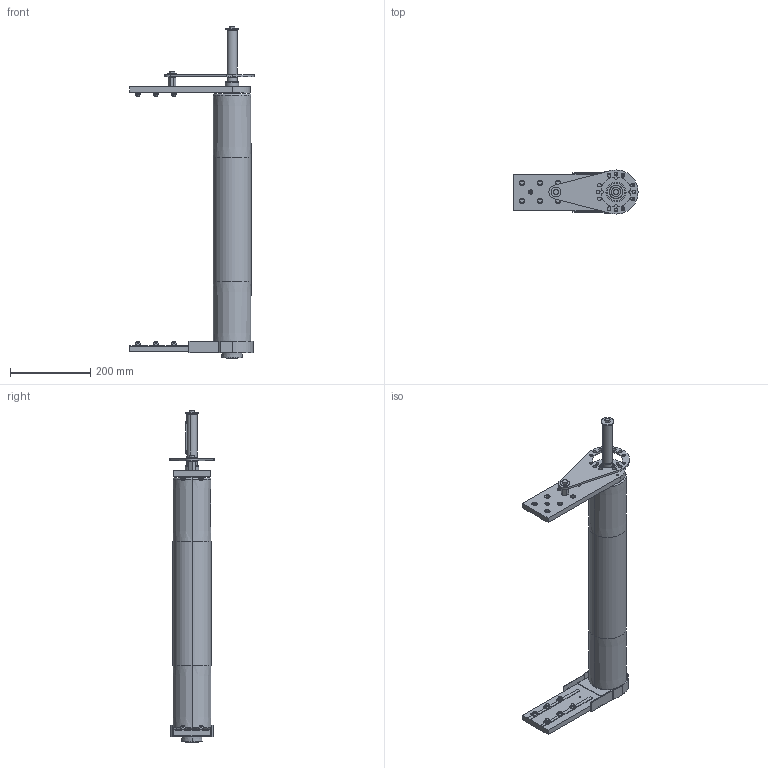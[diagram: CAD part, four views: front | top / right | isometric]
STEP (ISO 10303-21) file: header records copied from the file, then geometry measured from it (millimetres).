
FILE_DESCRIPTION (( 'STEP AP203' ), '1' );
FILE_NAME ('084.095.KD.63.600.STEP', '2019-07-30T07:09:03', ( '' ), ( '' ), 'SwSTEP 2.0', 'SolidWorks 2018', '' );
FILE_SCHEMA (( 'CONFIG_CONTROL_DESIGN' ));
Length unit declared in the file: millimetre
Products named in the file (22): 084.812.004; CHIAVETTE_A 8x7x80 UNI 6604-69; VITI TE UNI 5739_M8x20 UNI 5739; RONDELLE FASCIA LARGA UNI 6593_8.4x24 UNI 6593; 084.810.003; 084.301.000 VITI ALUSIC_084.301.003; 084.095.KD.63.600; 084.802.034_084.802.034; 084.808.005-1; 084.816.110_084.816.110<A macchina>; circlip for shafts normal_din_PreviewCfg; 084.808.003_084.808.003; VITI TSEI UNI 5933_M4x12 UNI 5933; 084.812.003; RONDELLE FASCIA LARGA UNI 6593_8.4x32 UNI 6593; GRANI A PUNTA PIATTA UNI 5923_M8x25 UNI 5923; 084.808.002_084.808.002; CHIAVETTE_A 8x7x20 UNI 6604-69; 084.802.027; 084.802.019_084.802.019; 084.302.000 DADI ALUSIC 13x13_084.302.004; 084.803.005-1
Assembly tree (48 placements, depth 2):
  084.095.KD.63.600
    084.808.005-1
    084.802.027
    084.812.004
    084.802.034_084.802.034
    084.301.000 VITI ALUSIC_084.301.003  x12
    084.302.000 DADI ALUSIC 13x13_084.302.004  x12
    084.816.110_084.816.110<A macchina>
    084.812.003
    084.808.003_084.808.003
    084.808.002_084.808.002
    084.810.003  x2
    084.802.019_084.802.019
    084.803.005-1
    CHIAVETTE_A 8x7x80 UNI 6604-69
    circlip for shafts normal_din_PreviewCfg  x3
    CHIAVETTE_A 8x7x20 UNI 6604-69
    GRANI A PUNTA PIATTA UNI 5923_M8x25 UNI 5923
    VITI TE UNI 5739_M8x20 UNI 5739  x2
    RONDELLE FASCIA LARGA UNI 6593_8.4x24 UNI 6593
    RONDELLE FASCIA LARGA UNI 6593_8.4x32 UNI 6593
    VITI TSEI UNI 5933_M4x12 UNI 5933  x2
Bounding box: 310 x 110 x 829.33 mm (x, y, z)
Volume: 2207271.5 mm3; surface area: 953671.6 mm2
Topology: 53 solids, 54 shells, 1377 faces, 3492 edges, 2273 vertices
Faces by surface type: plane 717, cylinder 397, cone 110, torus 96, bspline 48, sphere 9
Entity records: 32063 total; most frequent: CARTESIAN_POINT 6063, DIRECTION 4837, ORIENTED_EDGE 4724, EDGE_CURVE 2362, AXIS2_PLACEMENT_3D 1724, VERTEX_POINT 1544, LINE 1389, VECTOR 1389
